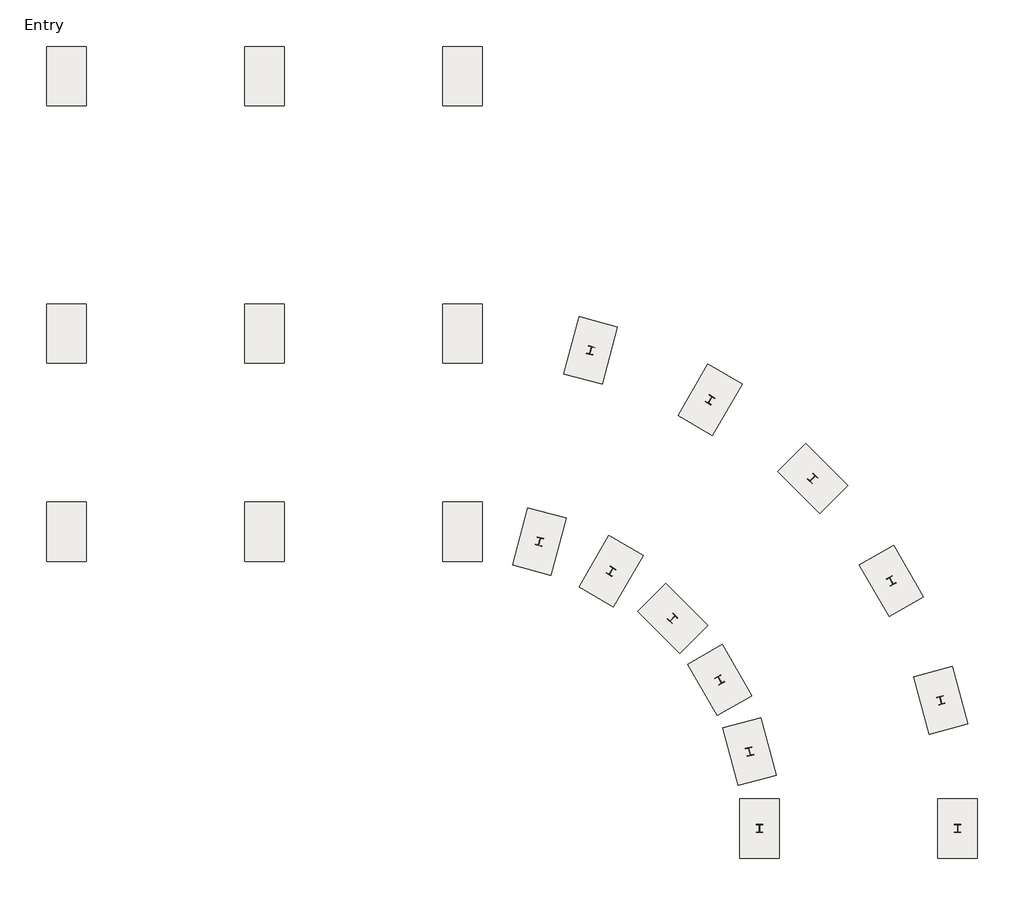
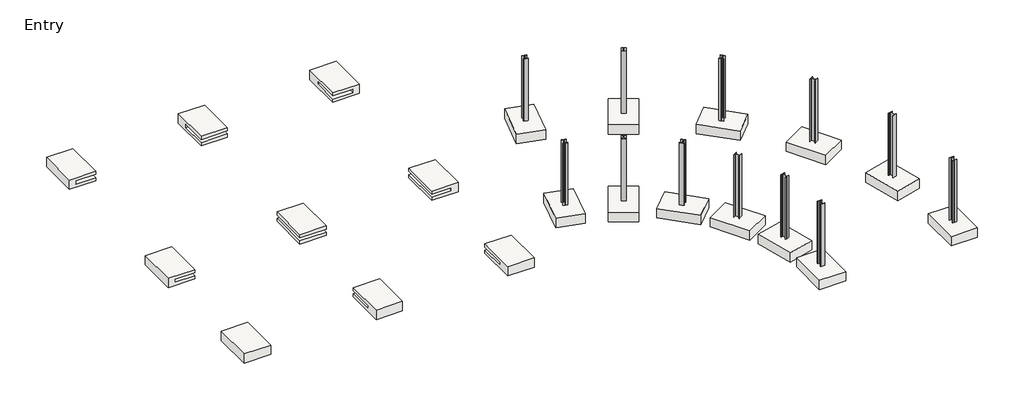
# One storey: 21 slabs, 12 columns.
"""IFC4 building model written with IfcOpenShell, lengths in millimetres."""

from ifc_helpers import new_model, si_unit, frame, origin, place, context, project, spatial, polyline, outline, extrude, faceted_brep, transform, mapped, element, save
from components import w_shapes_column_w10x33_b5b4db87, slab_5ba74754

model = new_model("IFC4")

# Units and contexts
model_context = context("Model", 3, world=origin())
ifc_project = project(units=[si_unit("LENGTHUNIT", "METRE", prefix="MILLI")], contexts=[model_context])

# Site, building, storey
site = spatial("IfcSite", under=ifc_project)
building = spatial("IfcBuilding", under=site)
storey = spatial("IfcBuildingStorey", under=building, Name="Entry", Elevation=0.0)

# Columns
placement = place(None, origin())
w_shapes_column_w10x33_shape = w_shapes_column_w10x33_b5b4db87(model_context)
element("IfcColumn", 1, ObjectType="W Shapes-Column : W10X33", at=placement, inside=storey, context=model_context, shape_type="MappedRepresentation", body=[
    mapped(w_shapes_column_w10x33_shape, transform((-17359.0357458, -12857.2965771, 0.0), x_axis=(1.0, 0.0, 0.0), y_axis=(0.0, 1.0, 0.0), z_axis=(0.0, 0.0, 1.0))),
])
element("IfcColumn", 2, ObjectType="W Shapes-Column : W10X33", at=placement, inside=storey, context=model_context, shape_type="MappedRepresentation", body=[
    mapped(w_shapes_column_w10x33_shape, transform((-11263.0357458, -12857.2965771, 0.0), x_axis=(1.0, 0.0, 0.0), y_axis=(0.0, 1.0, 0.0), z_axis=(0.0, 0.0, 1.0))),
])
element("IfcColumn", 3, ObjectType="W Shapes-Column : W10X33", at=placement, inside=storey, context=model_context, shape_type="MappedRepresentation", body=[
    mapped(w_shapes_column_w10x33_shape, transform((-17670.6099902, -10490.6552287, 0.0), x_axis=(0.9659258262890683, 0.2588190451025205, 0.0), y_axis=(-0.2588190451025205, 0.9659258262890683, 0.0), z_axis=(0.0, 0.0, 1.0))),
])
element("IfcColumn", 4, ObjectType="W Shapes-Column : W10X33", at=placement, inside=storey, context=model_context, shape_type="MappedRepresentation", body=[
    mapped(w_shapes_column_w10x33_shape, transform((-11782.3261532, -8912.8943298, 0.0), x_axis=(0.9659258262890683, 0.2588190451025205, 0.0), y_axis=(-0.2588190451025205, 0.9659258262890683, 0.0), z_axis=(0.0, 0.0, 1.0))),
])
element("IfcColumn", 5, ObjectType="W Shapes-Column : W10X33", at=placement, inside=storey, context=model_context, shape_type="MappedRepresentation", body=[
    mapped(w_shapes_column_w10x33_shape, transform((-18584.0994536, -8285.2965771, 0.0), x_axis=(0.866025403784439, 0.49999999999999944, 0.0), y_axis=(-0.49999999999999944, 0.866025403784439, 0.0), z_axis=(0.0, 0.0, 1.0))),
])
element("IfcColumn", 6, ObjectType="W Shapes-Column : W10X33", at=placement, inside=storey, context=model_context, shape_type="MappedRepresentation", body=[
    mapped(w_shapes_column_w10x33_shape, transform((-13304.8085921, -5237.2965771, 0.0), x_axis=(0.866025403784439, 0.49999999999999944, 0.0), y_axis=(-0.49999999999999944, 0.866025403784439, 0.0), z_axis=(0.0, 0.0, 1.0))),
])
element("IfcColumn", 7, ObjectType="W Shapes-Column : W10X33", at=placement, inside=storey, context=model_context, shape_type="MappedRepresentation", body=[
    mapped(w_shapes_column_w10x33_shape, transform((-20037.2513386, -6391.5121699, 0.0), x_axis=(0.7071067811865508, -0.7071067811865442, 0.0), y_axis=(0.7071067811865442, 0.7071067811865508, 0.0), z_axis=(0.0, 0.0, 1.0))),
])
element("IfcColumn", 8, ObjectType="W Shapes-Column : W10X33", at=placement, inside=storey, context=model_context, shape_type="MappedRepresentation", body=[
    mapped(w_shapes_column_w10x33_shape, transform((-15726.7284005, -2080.9892318, 0.0), x_axis=(0.7071067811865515, -0.7071067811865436, 0.0), y_axis=(0.7071067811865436, 0.7071067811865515, 0.0), z_axis=(0.0, 0.0, 1.0))),
])
element("IfcColumn", 9, ObjectType="W Shapes-Column : W10X33", at=placement, inside=storey, context=model_context, shape_type="MappedRepresentation", body=[
    mapped(w_shapes_column_w10x33_shape, transform((-21931.0357458, -4938.3602849, 0.0), x_axis=(0.8660254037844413, -0.49999999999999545, 0.0), y_axis=(0.49999999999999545, 0.8660254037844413, 0.0), z_axis=(0.0, 0.0, 1.0))),
])
element("IfcColumn", 10, ObjectType="W Shapes-Column : W10X33", at=placement, inside=storey, context=model_context, shape_type="MappedRepresentation", body=[
    mapped(w_shapes_column_w10x33_shape, transform((-18883.0357458, 340.9305766, 0.0), x_axis=(0.8660254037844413, -0.49999999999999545, 0.0), y_axis=(0.49999999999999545, 0.8660254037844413, 0.0), z_axis=(0.0, 0.0, 1.0))),
])
element("IfcColumn", 11, ObjectType="W Shapes-Column : W10X33", at=placement, inside=storey, context=model_context, shape_type="MappedRepresentation", body=[
    mapped(w_shapes_column_w10x33_shape, transform((-24136.3943974, -4024.8708215, 0.0), x_axis=(0.9659258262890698, -0.25881904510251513, 0.0), y_axis=(0.25881904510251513, 0.9659258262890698, 0.0), z_axis=(0.0, 0.0, 1.0))),
])
element("IfcColumn", 12, ObjectType="W Shapes-Column : W10X33", at=placement, inside=storey, context=model_context, shape_type="MappedRepresentation", body=[
    mapped(w_shapes_column_w10x33_shape, transform((-22558.6334985, 1863.4130155, 0.0), x_axis=(0.9659258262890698, -0.25881904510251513, 0.0), y_axis=(0.25881904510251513, 0.9659258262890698, 0.0), z_axis=(0.0, 0.0, 1.0))),
])

# Slabs
element("IfcSlab", 13, ObjectType="Footing-Rectangular : 72\" x 48\" x 18\"", at=placement, inside=storey, context=model_context, shape_type="Brep", body=[
    faceted_brep([(-25893.4357458, 11221.9034229, -1676.4), (-27112.6357458, 11221.9034229, -1676.4), (-27112.6357458, 9393.1034229, -1676.4), (-25893.4357458, 9393.1034229, -1676.4), (-25893.4357458, 11221.9034229, -2133.6), (-25893.4357458, 9393.1034229, -2133.6), (-27112.6357458, 9393.1034229, -2133.6), (-27112.6357458, 11221.9034229, -2133.6), (-27112.6357458, 9393.1034229, -1981.2), (-27112.6357458, 10612.3034229, -1981.2), (-27112.6357458, 10612.3034229, -1828.8), (-27112.6357458, 9393.1034229, -1828.8), (-26198.2357458, 9393.1034229, -1828.8), (-26198.2357458, 9393.1034229, -1981.2), (-26198.2357458, 10612.3034229, -1981.2), (-26198.2357458, 10612.3034229, -1828.8)], [[[0, 1, 2, 3]], [[4, 5, 6, 7]], [[1, 0, 4, 7]], [[2, 1, 7, 6, 8, 9, 10, 11]], [[3, 2, 11, 12, 13, 8, 6, 5]], [[0, 3, 5, 4]], [[14, 9, 8, 13]], [[15, 12, 11, 10]], [[15, 14, 13, 12]], [[14, 15, 10, 9]]]),
])
element("IfcSlab", 14, ObjectType="Footing-Rectangular : 72\" x 48\" x 18\"", at=placement, inside=storey, context=model_context, shape_type="SweptSolid", body=[
    extrude(outline(polyline([(9393.1034229, -1676.4), (11221.9034229, -1676.4), (11221.9034229, -2133.6), (9393.1034229, -2133.6), (9393.1034229, -1981.2), (10612.3034229, -1981.2), (10612.3034229, -1828.8), (9393.1034229, -1828.8), (9393.1034229, -1676.4)])), frame((-33208.6357458, 0.0, 0.0), z_axis=(1.0, 0.0, 0.0), x_axis=(0.0, 1.0, 0.0)), (0.0, 0.0, 1.0), 1219.2),
])
element("IfcSlab", 15, ObjectType="Footing-Rectangular : 72\" x 48\" x 18\"", at=placement, inside=storey, context=model_context, shape_type="Brep", body=[
    faceted_brep([(-38085.4357458, 11221.9034229, -1676.4), (-39304.6357458, 11221.9034229, -1676.4), (-39304.6357458, 9393.1034229, -1676.4), (-38085.4357458, 9393.1034229, -1676.4), (-38085.4357458, 11221.9034229, -2133.6), (-38085.4357458, 9393.1034229, -2133.6), (-39304.6357458, 9393.1034229, -2133.6), (-39304.6357458, 11221.9034229, -2133.6), (-38085.4357458, 9393.1034229, -1981.2), (-38999.8357458, 9393.1034229, -1981.2), (-38999.8357458, 9393.1034229, -1828.8), (-38085.4357458, 9393.1034229, -1828.8), (-38085.4357458, 10612.3034229, -1828.8), (-38085.4357458, 10612.3034229, -1981.2), (-38999.8357458, 10612.3034229, -1981.2), (-38999.8357458, 10612.3034229, -1828.8)], [[[0, 1, 2, 3]], [[4, 5, 6, 7]], [[1, 0, 4, 7]], [[2, 1, 7, 6]], [[3, 2, 6, 5, 8, 9, 10, 11]], [[0, 3, 11, 12, 13, 8, 5, 4]], [[13, 14, 9, 8]], [[10, 15, 12, 11]], [[14, 15, 10, 9]], [[15, 14, 13, 12]]]),
])
element("IfcSlab", 16, ObjectType="Footing-Rectangular : 72\" x 48\" x 18\"", at=placement, inside=storey, context=model_context, shape_type="Brep", body=[
    faceted_brep([(-25893.4357458, -2798.8965771, -1676.4), (-27112.6357458, -2798.8965771, -1676.4), (-27112.6357458, -4627.6965771, -1676.4), (-25893.4357458, -4627.6965771, -1676.4), (-25893.4357458, -2798.8965771, -2133.6), (-25893.4357458, -4627.6965771, -2133.6), (-27112.6357458, -4627.6965771, -2133.6), (-27112.6357458, -2798.8965771, -2133.6), (-27112.6357458, -2798.8965771, -1981.2), (-26198.2357458, -2798.8965771, -1981.2), (-26198.2357458, -2798.8965771, -1828.8), (-27112.6357458, -2798.8965771, -1828.8), (-27112.6357458, -4018.0965771, -1828.8), (-27112.6357458, -4018.0965771, -1981.2), (-26198.2357458, -4018.0965771, -1981.2), (-26198.2357458, -4018.0965771, -1828.8)], [[[0, 1, 2, 3]], [[4, 5, 6, 7]], [[1, 0, 4, 7, 8, 9, 10, 11]], [[2, 1, 11, 12, 13, 8, 7, 6]], [[3, 2, 6, 5]], [[0, 3, 5, 4]], [[13, 14, 9, 8]], [[10, 15, 12, 11]], [[14, 15, 10, 9]], [[15, 14, 13, 12]]]),
])
element("IfcSlab", 17, ObjectType="Footing-Rectangular : 72\" x 48\" x 18\"", at=placement, inside=storey, context=model_context, shape_type="SweptSolid", body=[
    extrude(outline(polyline([(-1676.4, -25893.4357458), (-1676.4, -27112.6357458), (-1828.8, -27112.6357458), (-1828.8, -26198.2357458), (-1981.2, -26198.2357458), (-1981.2, -27112.6357458), (-2133.6, -27112.6357458), (-2133.6, -25893.4357458), (-1676.4, -25893.4357458)])), frame((0.0, 1468.3034229, 0.0), z_axis=(0.0, 1.0, 0.0), x_axis=(0.0, 0.0, 1.0)), (0.0, 0.0, 1.0), 1828.8),
])
element("IfcSlab", 18, ObjectType="Footing-Rectangular : 72\" x 48\" x 18\"", at=placement, inside=storey, context=model_context, shape_type="SweptSolid", body=[
    extrude(outline(polyline([(-4627.6965771, -1676.4), (-2798.8965771, -1676.4), (-2798.8965771, -1828.8), (-4018.0965771, -1828.8), (-4018.0965771, -1981.2), (-2798.8965771, -1981.2), (-2798.8965771, -2133.6), (-4627.6965771, -2133.6), (-4627.6965771, -1676.4)])), frame((-33208.6357458, 0.0, 0.0), z_axis=(1.0, 0.0, 0.0), x_axis=(0.0, 1.0, 0.0)), (0.0, 0.0, 1.0), 1219.2),
])
element("IfcSlab", 19, ObjectType="Footing-Rectangular : 72\" x 48\" x 18\"", at=placement, inside=storey, context=model_context, shape_type="Brep", body=[
    faceted_brep([(-39304.6357458, -4627.6965771, -1676.4), (-38085.4357458, -4627.6965771, -1676.4), (-38085.4357458, -2798.8965771, -1676.4), (-39304.6357458, -2798.8965771, -1676.4), (-39304.6357458, -4627.6965771, -2133.6), (-39304.6357458, -2798.8965771, -2133.6), (-38085.4357458, -2798.8965771, -2133.6), (-38085.4357458, -4627.6965771, -2133.6), (-38085.4357458, -2798.8965771, -1981.2), (-38085.4357458, -4018.0965771, -1981.2), (-38085.4357458, -4018.0965771, -1828.8), (-38085.4357458, -2798.8965771, -1828.8), (-38999.8357458, -2798.8965771, -1828.8), (-38999.8357458, -2798.8965771, -1981.2), (-38999.8357458, -4018.0965771, -1981.2), (-38999.8357458, -4018.0965771, -1828.8)], [[[0, 1, 2, 3]], [[4, 5, 6, 7]], [[1, 0, 4, 7]], [[2, 1, 7, 6, 8, 9, 10, 11]], [[3, 2, 11, 12, 13, 8, 6, 5]], [[0, 3, 5, 4]], [[13, 14, 9, 8]], [[10, 15, 12, 11]], [[14, 15, 10, 9]], [[15, 14, 13, 12]]]),
])
element("IfcSlab", 20, ObjectType="Footing-Rectangular : 72\" x 48\" x 18\"", at=placement, inside=storey, context=model_context, shape_type="SweptSolid", body=[
    extrude(outline(polyline([(-31989.4357458, 1468.3034229), (-33208.6357458, 1468.3034229), (-33208.6357458, 3297.1034229), (-31989.4357458, 3297.1034229), (-31989.4357458, 1468.3034229)])), frame((0.0, 0.0, -1828.8), z_axis=(0.0, 0.0, 1.0), x_axis=(1.0, 0.0, 0.0)), (0.0, 0.0, 1.0), 152.4),
    extrude(outline(polyline([(-33208.6357458, 1468.3034229), (-33208.6357458, 3297.1034229), (-31989.4357458, 3297.1034229), (-31989.4357458, 1468.3034229), (-33208.6357458, 1468.3034229)])), frame((0.0, 0.0, -2133.6), z_axis=(0.0, 0.0, 1.0), x_axis=(1.0, 0.0, 0.0)), (0.0, 0.0, 1.0), 152.4),
])
element("IfcSlab", 21, ObjectType="Footing-Rectangular : 72\" x 48\" x 18\"", at=placement, inside=storey, context=model_context, shape_type="SweptSolid", body=[
    extrude(outline(polyline([(-1676.4, -38085.4357458), (-1676.4, -39304.6357458), (-2133.6, -39304.6357458), (-2133.6, -38085.4357458), (-1981.2, -38085.4357458), (-1981.2, -38999.8357458), (-1828.8, -38999.8357458), (-1828.8, -38085.4357458), (-1676.4, -38085.4357458)])), frame((0.0, 1468.3034229, 0.0), z_axis=(0.0, 1.0, 0.0), x_axis=(0.0, 0.0, 1.0)), (0.0, 0.0, 1.0), 1828.8),
])
slab_shape = slab_5ba74754(model_context)
element("IfcSlab", 22, ObjectType="Footing-Rectangular : 72\" x 48\" x 18\"", at=placement, inside=storey, context=model_context, shape_type="MappedRepresentation", body=[
    mapped(slab_shape, transform((-17359.0357458, -12857.2965771, 0.0), x_axis=(1.0, 0.0, 0.0), y_axis=(0.0, 1.0, 0.0), z_axis=(0.0, 0.0, 1.0))),
])
element("IfcSlab", 23, ObjectType="Footing-Rectangular : 72\" x 48\" x 18\"", at=placement, inside=storey, context=model_context, shape_type="MappedRepresentation", body=[
    mapped(slab_shape, transform((-17670.6099902, -10490.6552287, 0.0), x_axis=(0.9659258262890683, 0.2588190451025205, 0.0), y_axis=(-0.2588190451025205, 0.9659258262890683, 0.0), z_axis=(0.0, 0.0, 1.0))),
])
element("IfcSlab", 24, ObjectType="Footing-Rectangular : 72\" x 48\" x 18\"", at=placement, inside=storey, context=model_context, shape_type="MappedRepresentation", body=[
    mapped(slab_shape, transform((-18584.0994536, -8285.2965771, 0.0), x_axis=(0.866025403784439, 0.49999999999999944, 0.0), y_axis=(-0.49999999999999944, 0.866025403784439, 0.0), z_axis=(0.0, 0.0, 1.0))),
])
element("IfcSlab", 25, ObjectType="Footing-Rectangular : 72\" x 48\" x 18\"", at=placement, inside=storey, context=model_context, shape_type="MappedRepresentation", body=[
    mapped(slab_shape, transform((-20037.2513386, -6391.5121699, 0.0), x_axis=(0.7071067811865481, 0.7071067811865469, 0.0), y_axis=(-0.7071067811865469, 0.7071067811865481, 0.0), z_axis=(0.0, 0.0, 1.0))),
])
element("IfcSlab", 26, ObjectType="Footing-Rectangular : 72\" x 48\" x 18\"", at=placement, inside=storey, context=model_context, shape_type="MappedRepresentation", body=[
    mapped(slab_shape, transform((-24136.3943974, -4024.8708215, 0.0), x_axis=(0.9659258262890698, -0.25881904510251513, 0.0), y_axis=(0.25881904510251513, 0.9659258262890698, 0.0), z_axis=(0.0, 0.0, 1.0))),
])
element("IfcSlab", 27, ObjectType="Footing-Rectangular : 72\" x 48\" x 18\"", at=placement, inside=storey, context=model_context, shape_type="MappedRepresentation", body=[
    mapped(slab_shape, transform((-21931.0357458, -4938.3602849, 0.0), x_axis=(0.8660254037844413, -0.49999999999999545, 0.0), y_axis=(0.49999999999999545, 0.8660254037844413, 0.0), z_axis=(0.0, 0.0, 1.0))),
])
element("IfcSlab", 28, ObjectType="Footing-Rectangular : 72\" x 48\" x 18\"", at=placement, inside=storey, context=model_context, shape_type="MappedRepresentation", body=[
    mapped(slab_shape, transform((-11263.0357458, -12857.2965771, 0.0), x_axis=(1.0, 0.0, 0.0), y_axis=(0.0, 1.0, 0.0), z_axis=(0.0, 0.0, 1.0))),
])
element("IfcSlab", 29, ObjectType="Footing-Rectangular : 72\" x 48\" x 18\"", at=placement, inside=storey, context=model_context, shape_type="MappedRepresentation", body=[
    mapped(slab_shape, transform((-11782.3261532, -8912.8943298, 0.0), x_axis=(0.9659258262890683, 0.2588190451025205, 0.0), y_axis=(-0.2588190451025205, 0.9659258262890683, 0.0), z_axis=(0.0, 0.0, 1.0))),
])
element("IfcSlab", 30, ObjectType="Footing-Rectangular : 72\" x 48\" x 18\"", at=placement, inside=storey, context=model_context, shape_type="MappedRepresentation", body=[
    mapped(slab_shape, transform((-13304.8085921, -5237.2965771, 0.0), x_axis=(0.866025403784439, 0.49999999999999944, 0.0), y_axis=(-0.49999999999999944, 0.866025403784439, 0.0), z_axis=(0.0, 0.0, 1.0))),
])
element("IfcSlab", 31, ObjectType="Footing-Rectangular : 72\" x 48\" x 18\"", at=placement, inside=storey, context=model_context, shape_type="MappedRepresentation", body=[
    mapped(slab_shape, transform((-15726.7284005, -2080.9892318, 0.0), x_axis=(0.7071067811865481, 0.7071067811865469, 0.0), y_axis=(-0.7071067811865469, 0.7071067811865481, 0.0), z_axis=(0.0, 0.0, 1.0))),
])
element("IfcSlab", 32, ObjectType="Footing-Rectangular : 72\" x 48\" x 18\"", at=placement, inside=storey, context=model_context, shape_type="MappedRepresentation", body=[
    mapped(slab_shape, transform((-22558.6334985, 1863.4130155, 0.0), x_axis=(0.9659258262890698, -0.25881904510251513, 0.0), y_axis=(0.25881904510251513, 0.9659258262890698, 0.0), z_axis=(0.0, 0.0, 1.0))),
])
element("IfcSlab", 33, ObjectType="Footing-Rectangular : 72\" x 48\" x 18\"", at=placement, inside=storey, context=model_context, shape_type="MappedRepresentation", body=[
    mapped(slab_shape, transform((-18883.0357458, 340.9305766, 0.0), x_axis=(0.8660254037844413, -0.49999999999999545, 0.0), y_axis=(0.49999999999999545, 0.8660254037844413, 0.0), z_axis=(0.0, 0.0, 1.0))),
])

save(model, "model.ifc")
